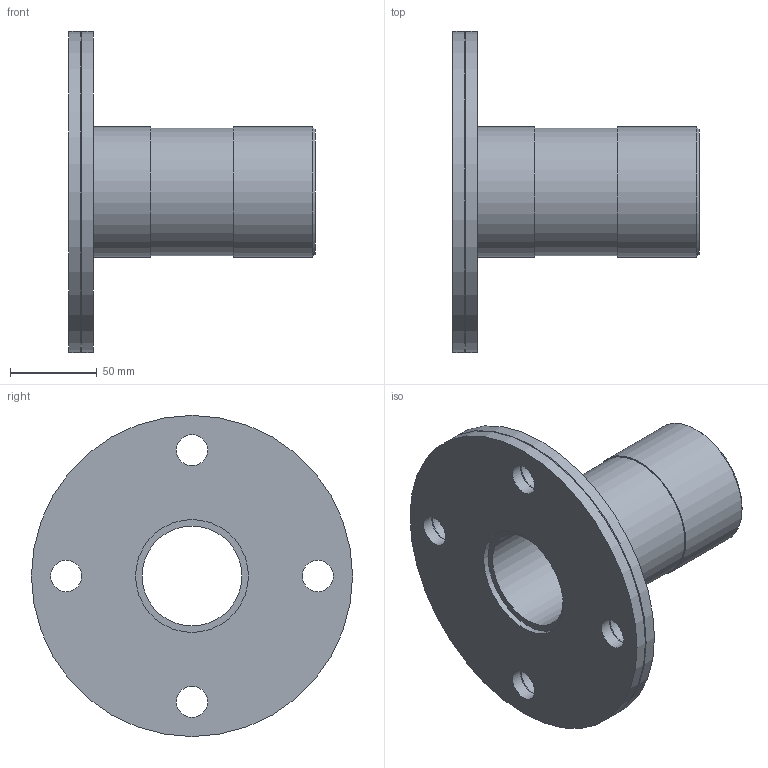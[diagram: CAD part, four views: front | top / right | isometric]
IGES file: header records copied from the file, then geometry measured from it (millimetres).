
Global section: file name: 872306075025_182306075025.ipt; native system: Autodesk Inventor 2015; preprocessor: unknown; author: Кирилл,,11,0; organization: 20170224.180708; date: 20170608.042659; units: millimetre
Bounding box: 142 x 185 x 185 mm (x, y, z)
Volume: 530294.3 mm3; surface area: 117810.8 mm2
Topology: 1 solids, 1 shells, 34 faces, 91 edges, 64 vertices
Faces by surface type: revolution 19, plane 7, cylinder 5, cone 3
Full cylindrical faces by diameter (mm): 73.5 x1, 75 x2, 185 x2
